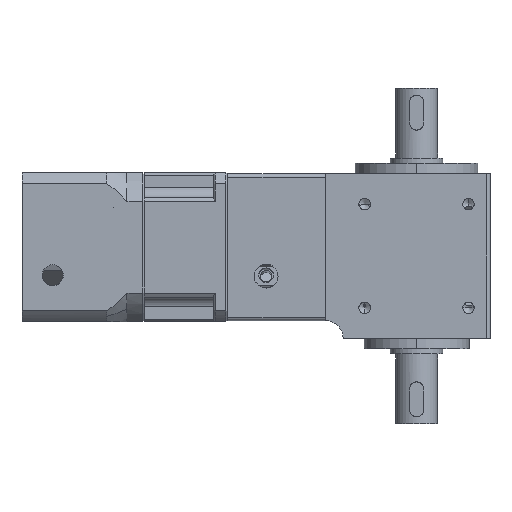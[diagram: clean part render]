
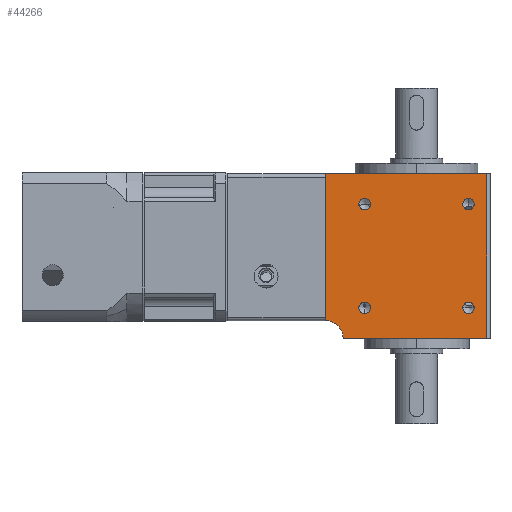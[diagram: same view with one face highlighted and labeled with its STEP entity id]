
A CAD part, front view. The second image highlights one B-rep face of the part: STEP entity #44266.
In plain terms, the highlighted planar face has unit normal (0, -1, 0) as drawn and (0, 0, 1) by its records, which use the part's own axes.
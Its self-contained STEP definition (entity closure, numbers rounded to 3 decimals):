
#566 = CARTESIAN_POINT ( 'NONE',  ( 39.699, -12.349, 21. ) ) ;
#633 = EDGE_CURVE ( 'NONE', #17424, #20919, #4760, .T. ) ;
#1142 = EDGE_LOOP ( 'NONE', ( #28943, #26604 ) ) ;
#1305 = DIRECTION ( 'NONE',  ( 1., 0., 0. ) ) ;
#1452 = VERTEX_POINT ( 'NONE', #566 ) ;
#1672 = CARTESIAN_POINT ( 'NONE',  ( 50., 22.5, 21. ) ) ;
#1914 = CARTESIAN_POINT ( 'NONE',  ( 41.349, -12.349, 21. ) ) ;
#2394 = DIRECTION ( 'NONE',  ( 1., 0., 0. ) ) ;
#2941 = DIRECTION ( 'NONE',  ( 1., 0., 0. ) ) ;
#4106 = CIRCLE ( 'NONE', #25128, 1.65 ) ;
#4238 = CARTESIAN_POINT ( 'NONE',  ( 45., -23.5, 21. ) ) ;
#4714 = CIRCLE ( 'NONE', #37706, 1.65 ) ;
#4760 = LINE ( 'NONE', #37129, #19270 ) ;
#6049 = ORIENTED_EDGE ( 'NONE', *, *, #10864, .F. ) ;
#6164 = CARTESIAN_POINT ( 'NONE',  ( 39.699, 17.349, 21. ) ) ;
#6510 = EDGE_LOOP ( 'NONE', ( #32490, #34889, #20281, #18738, #48119 ) ) ;
#6794 = LINE ( 'NONE', #41743, #57237 ) ;
#6825 = DIRECTION ( 'NONE',  ( 1., 0., 0. ) ) ;
#6948 = EDGE_CURVE ( 'NONE', #1452, #18379, #4106, .T. ) ;
#7920 = FACE_BOUND ( 'NONE', #36954, .T. ) ;
#8264 = VERTEX_POINT ( 'NONE', #38001 ) ;
#9109 = CARTESIAN_POINT ( 'NONE',  ( 10.001, 17.349, 21. ) ) ;
#9618 = CARTESIAN_POINT ( 'NONE',  ( 10.001, -12.349, 21. ) ) ;
#9806 = CARTESIAN_POINT ( 'NONE',  ( 11.651, -12.349, 21. ) ) ;
#9997 = CIRCLE ( 'NONE', #10232, 1.65 ) ;
#10232 = AXIS2_PLACEMENT_3D ( 'NONE', #57852, #28652, #62770 ) ;
#10539 = ORIENTED_EDGE ( 'NONE', *, *, #61404, .F. ) ;
#10864 = EDGE_CURVE ( 'NONE', #15769, #8264, #55825, .T. ) ;
#11812 = DIRECTION ( 'NONE',  ( 0., 0., 1. ) ) ;
#12005 = EDGE_CURVE ( 'NONE', #20264, #17424, #6794, .T. ) ;
#12738 = EDGE_CURVE ( 'NONE', #61722, #27907, #16659, .T. ) ;
#14724 = DIRECTION ( 'NONE',  ( 1., 0., 0. ) ) ;
#15222 = VERTEX_POINT ( 'NONE', #6164 ) ;
#15769 = VERTEX_POINT ( 'NONE', #9109 ) ;
#16659 = CIRCLE ( 'NONE', #31639, 5. ) ;
#16939 = PLANE ( 'NONE',  #34968 ) ;
#17424 = VERTEX_POINT ( 'NONE', #39187 ) ;
#18379 = VERTEX_POINT ( 'NONE', #51790 ) ;
#18454 = CARTESIAN_POINT ( 'NONE',  ( 50., -23.5, 21. ) ) ;
#18738 = ORIENTED_EDGE ( 'NONE', *, *, #30856, .F. ) ;
#19270 = VECTOR ( 'NONE', #2941, 1000. ) ;
#20264 = VERTEX_POINT ( 'NONE', #51318 ) ;
#20281 = ORIENTED_EDGE ( 'NONE', *, *, #12738, .F. ) ;
#20583 = CIRCLE ( 'NONE', #38406, 1.65 ) ;
#20729 = ORIENTED_EDGE ( 'NONE', *, *, #38199, .F. ) ;
#20919 = VERTEX_POINT ( 'NONE', #1672 ) ;
#21455 = CARTESIAN_POINT ( 'NONE',  ( 53., -23.5, 21. ) ) ;
#21527 = EDGE_CURVE ( 'NONE', #18379, #1452, #30152, .T. ) ;
#22463 = FACE_BOUND ( 'NONE', #40974, .T. ) ;
#23356 = DIRECTION ( 'NONE',  ( 1., 0., 0. ) ) ;
#23690 = CARTESIAN_POINT ( 'NONE',  ( 42.999, 17.349, 21. ) ) ;
#24214 = DIRECTION ( 'NONE',  ( 0., 0., 1. ) ) ;
#24858 = CARTESIAN_POINT ( 'NONE',  ( 13.301, -12.349, 21. ) ) ;
#25128 = AXIS2_PLACEMENT_3D ( 'NONE', #1914, #36122, #6825 ) ;
#26604 = ORIENTED_EDGE ( 'NONE', *, *, #6948, .F. ) ;
#26821 = DIRECTION ( 'NONE',  ( -1., 0., 0. ) ) ;
#27907 = VERTEX_POINT ( 'NONE', #4238 ) ;
#28507 = EDGE_LOOP ( 'NONE', ( #10539, #34443 ) ) ;
#28524 = CARTESIAN_POINT ( 'NONE',  ( 11.651, -12.349, 21. ) ) ;
#28652 = DIRECTION ( 'NONE',  ( 0., 0., 1. ) ) ;
#28838 = DIRECTION ( 'NONE',  ( 0., -1., 0. ) ) ;
#28943 = ORIENTED_EDGE ( 'NONE', *, *, #21527, .F. ) ;
#29271 = CARTESIAN_POINT ( 'NONE',  ( 50., -18.5, 21. ) ) ;
#30152 = CIRCLE ( 'NONE', #45825, 1.65 ) ;
#30254 = ORIENTED_EDGE ( 'NONE', *, *, #57639, .F. ) ;
#30487 = CIRCLE ( 'NONE', #59112, 1.65 ) ;
#30626 = DIRECTION ( 'NONE',  ( 0., 0., 1. ) ) ;
#30856 = EDGE_CURVE ( 'NONE', #20919, #61722, #58899, .T. ) ;
#31639 = AXIS2_PLACEMENT_3D ( 'NONE', #18454, #52589, #23356 ) ;
#31680 = DIRECTION ( 'NONE',  ( 0., 0., 1. ) ) ;
#32490 = ORIENTED_EDGE ( 'NONE', *, *, #12005, .F. ) ;
#32980 = VECTOR ( 'NONE', #28838, 1000. ) ;
#33104 = EDGE_CURVE ( 'NONE', #27907, #20264, #57193, .T. ) ;
#33416 = DIRECTION ( 'NONE',  ( 1., 0., 0. ) ) ;
#34443 = ORIENTED_EDGE ( 'NONE', *, *, #57889, .F. ) ;
#34889 = ORIENTED_EDGE ( 'NONE', *, *, #33104, .F. ) ;
#34968 = AXIS2_PLACEMENT_3D ( 'NONE', #21455, #56017, #26821 ) ;
#35028 = CARTESIAN_POINT ( 'NONE',  ( 53., -23.5, 21. ) ) ;
#36122 = DIRECTION ( 'NONE',  ( 0., 0., 1. ) ) ;
#36766 = AXIS2_PLACEMENT_3D ( 'NONE', #41098, #11812, #46008 ) ;
#36862 = DIRECTION ( 'NONE',  ( 0., 1., 0. ) ) ;
#36954 = EDGE_LOOP ( 'NONE', ( #38957, #20729 ) ) ;
#37129 = CARTESIAN_POINT ( 'NONE',  ( 53., 22.5, 21. ) ) ;
#37706 = AXIS2_PLACEMENT_3D ( 'NONE', #59833, #30626, #1305 ) ;
#38001 = CARTESIAN_POINT ( 'NONE',  ( 13.301, 17.349, 21. ) ) ;
#38199 = EDGE_CURVE ( 'NONE', #51014, #62767, #20583, .T. ) ;
#38406 = AXIS2_PLACEMENT_3D ( 'NONE', #28524, #62643, #33416 ) ;
#38957 = ORIENTED_EDGE ( 'NONE', *, *, #43043, .F. ) ;
#39187 = CARTESIAN_POINT ( 'NONE',  ( 3., 22.5, 21. ) ) ;
#39334 = CIRCLE ( 'NONE', #62737, 1.65 ) ;
#40974 = EDGE_LOOP ( 'NONE', ( #30254, #6049 ) ) ;
#41098 = CARTESIAN_POINT ( 'NONE',  ( 11.651, 17.349, 21. ) ) ;
#41743 = CARTESIAN_POINT ( 'NONE',  ( 3., -23.5, 21. ) ) ;
#43043 = EDGE_CURVE ( 'NONE', #62767, #51014, #39334, .T. ) ;
#43982 = DIRECTION ( 'NONE',  ( 0., 0., 1. ) ) ;
#44175 = VECTOR ( 'NONE', #54429, 1000. ) ;
#44266 = ADVANCED_FACE ( 'NONE', ( #48410, #58328, #7920, #22463, #45332 ), #16939, .F. ) ;
#45332 = FACE_OUTER_BOUND ( 'NONE', #6510, .T. ) ;
#45825 = AXIS2_PLACEMENT_3D ( 'NONE', #53445, #24214, #58362 ) ;
#46008 = DIRECTION ( 'NONE',  ( 1., 0., 0. ) ) ;
#48119 = ORIENTED_EDGE ( 'NONE', *, *, #633, .F. ) ;
#48410 = FACE_BOUND ( 'NONE', #28507, .T. ) ;
#50206 = VERTEX_POINT ( 'NONE', #23690 ) ;
#51014 = VERTEX_POINT ( 'NONE', #9618 ) ;
#51318 = CARTESIAN_POINT ( 'NONE',  ( 3., -23.5, 21. ) ) ;
#51790 = CARTESIAN_POINT ( 'NONE',  ( 42.999, -12.349, 21. ) ) ;
#52589 = DIRECTION ( 'NONE',  ( 0., 0., 1. ) ) ;
#53445 = CARTESIAN_POINT ( 'NONE',  ( 41.349, -12.349, 21. ) ) ;
#54429 = DIRECTION ( 'NONE',  ( -1., 0., 0. ) ) ;
#55825 = CIRCLE ( 'NONE', #36766, 1.65 ) ;
#56017 = DIRECTION ( 'NONE',  ( 0., 0., -1. ) ) ;
#57193 = LINE ( 'NONE', #35028, #44175 ) ;
#57237 = VECTOR ( 'NONE', #36862, 1000. ) ;
#57639 = EDGE_CURVE ( 'NONE', #8264, #15769, #4714, .T. ) ;
#57852 = CARTESIAN_POINT ( 'NONE',  ( 41.349, 17.349, 21. ) ) ;
#57889 = EDGE_CURVE ( 'NONE', #15222, #50206, #9997, .T. ) ;
#58328 = FACE_BOUND ( 'NONE', #1142, .T. ) ;
#58362 = DIRECTION ( 'NONE',  ( 1., 0., 0. ) ) ;
#58899 = LINE ( 'NONE', #62970, #32980 ) ;
#59112 = AXIS2_PLACEMENT_3D ( 'NONE', #60893, #31680, #2394 ) ;
#59833 = CARTESIAN_POINT ( 'NONE',  ( 11.651, 17.349, 21. ) ) ;
#60893 = CARTESIAN_POINT ( 'NONE',  ( 41.349, 17.349, 21. ) ) ;
#61404 = EDGE_CURVE ( 'NONE', #50206, #15222, #30487, .T. ) ;
#61722 = VERTEX_POINT ( 'NONE', #29271 ) ;
#62643 = DIRECTION ( 'NONE',  ( 0., 0., 1. ) ) ;
#62737 = AXIS2_PLACEMENT_3D ( 'NONE', #9806, #43982, #14724 ) ;
#62767 = VERTEX_POINT ( 'NONE', #24858 ) ;
#62770 = DIRECTION ( 'NONE',  ( 1., 0., 0. ) ) ;
#62970 = CARTESIAN_POINT ( 'NONE',  ( 50., -23.5, 21. ) ) ;
